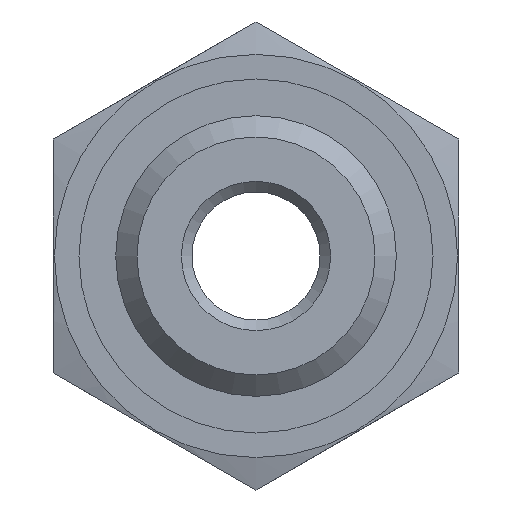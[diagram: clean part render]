
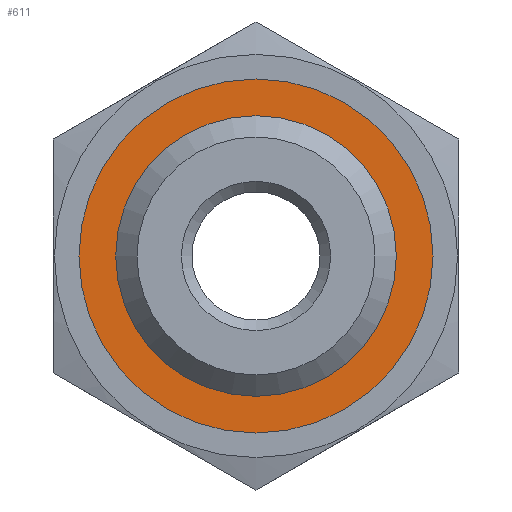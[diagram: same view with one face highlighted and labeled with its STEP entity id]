
A CAD part, left-side view. The second image highlights one B-rep face of the part: STEP entity #611.
In plain terms, the highlighted planar face has unit normal (-1, 0, 0).
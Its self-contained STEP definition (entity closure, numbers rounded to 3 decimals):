
#27=CIRCLE('',#651,8.3);
#28=CIRCLE('',#653,6.2);
#106=ORIENTED_EDGE('',*,*,#177,.F.);
#107=ORIENTED_EDGE('',*,*,#176,.T.);
#176=EDGE_CURVE('',#213,#213,#27,.T.);
#177=EDGE_CURVE('',#214,#214,#28,.T.);
#213=VERTEX_POINT('',#913);
#214=VERTEX_POINT('',#916);
#261=EDGE_LOOP('',(#106));
#262=EDGE_LOOP('',(#107));
#319=FACE_BOUND('',#261,.T.);
#320=FACE_BOUND('',#262,.T.);
#370=PLANE('',#652);
#611=ADVANCED_FACE('',(#319,#320),#370,.F.);
#651=AXIS2_PLACEMENT_3D('',#912,#729,#730);
#652=AXIS2_PLACEMENT_3D('',#914,#731,#732);
#653=AXIS2_PLACEMENT_3D('',#915,#733,#734);
#729=DIRECTION('',(-1.,0.,0.));
#730=DIRECTION('',(0.,0.,1.));
#731=DIRECTION('',(1.,0.,0.));
#732=DIRECTION('',(0.,0.,-1.));
#733=DIRECTION('',(-1.,0.,0.));
#734=DIRECTION('',(0.,0.,1.));
#912=CARTESIAN_POINT('',(-15.8,0.,0.));
#913=CARTESIAN_POINT('',(-15.8,0.,8.3));
#914=CARTESIAN_POINT('',(-15.8,0.,8.3));
#915=CARTESIAN_POINT('',(-15.8,0.,0.));
#916=CARTESIAN_POINT('',(-15.8,0.,6.2));
